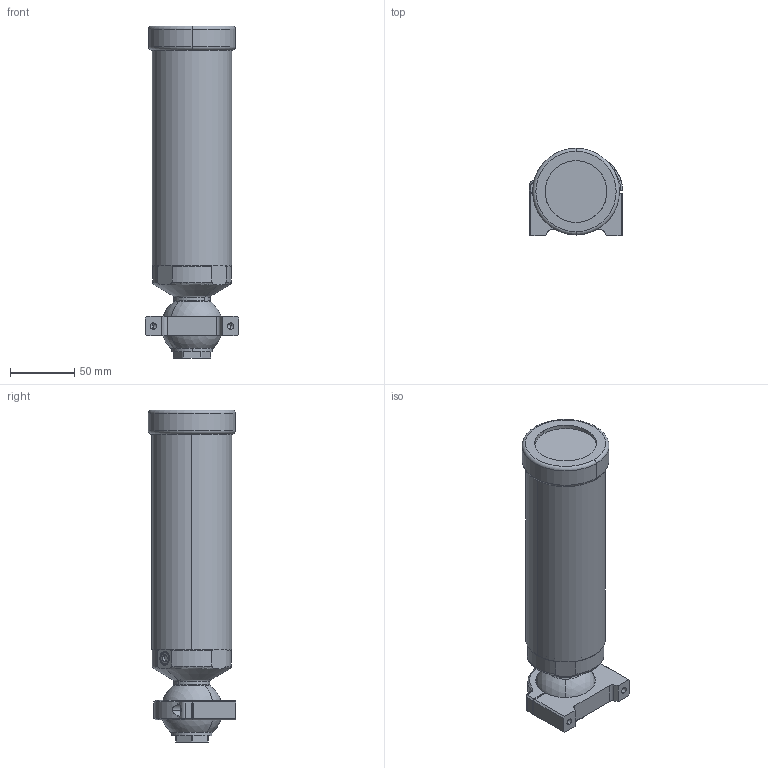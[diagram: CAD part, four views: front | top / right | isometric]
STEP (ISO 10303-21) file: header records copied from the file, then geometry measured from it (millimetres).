
FILE_DESCRIPTION (( 'STEP AP203' ), '1' );
FILE_NAME ('24C-DU.STEP', '2022-07-08T14:11:16', ( '' ), ( '' ), 'SwSTEP 2.0', 'SolidWorks 2021', '' );
FILE_SCHEMA (( 'CONFIG_CONTROL_DESIGN' ));
Length unit declared in the file: inch
Products named in the file (15): 91292A125_91292A125; 200280; 24C-DU; 91292A108_91292A108; 9452K141_Expanded; 200398; 500119; 200393; 200717; 200317; 400119; 200397; 200396; PG21-I01; 4452K541
Assembly tree (18 placements, depth 2):
  24C-DU
    200317
    200280
    200393
    200717
    200397
    200396
    200398
    400119
    500119
    PG21-I01
    4452K541  x2
    9452K141_Expanded
    91292A108_91292A108  x3
    91292A125_91292A125  x2
Bounding box: 73.02 x 68.1 x 259.13 mm (x, y, z)
Volume: 276036.9 mm3; surface area: 148950.3 mm2
Topology: 19 solids, 19 shells, 1055 faces, 2848 edges, 1834 vertices
Faces by surface type: cylinder 571, plane 262, cone 180, bspline 20, torus 19, sphere 3
Entity records: 31609 total; most frequent: CARTESIAN_POINT 10869, ORIENTED_EDGE 4118, DIRECTION 3963, EDGE_CURVE 2059, AXIS2_PLACEMENT_3D 1523, VERTEX_POINT 1330, LINE 917, VECTOR 917
